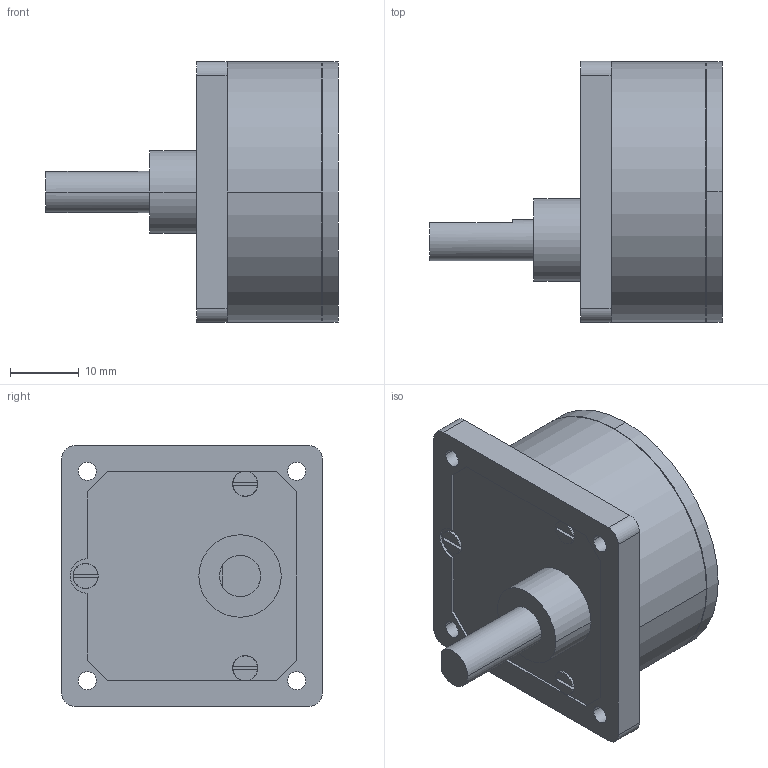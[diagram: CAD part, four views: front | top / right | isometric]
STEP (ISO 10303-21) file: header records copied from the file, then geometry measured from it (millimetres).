
FILE_DESCRIPTION((''),'2;1');
FILE_NAME('GS38','2016-10-06T',('mmagpetk'),(''),'CREO PARAMETRIC BY PTC INC, 2016050','CREO PARAMETRIC BY PTC INC, 2016050','');
FILE_SCHEMA(('CONFIG_CONTROL_DESIGN'));
Length unit declared in the file: millimetre
Products named in the file (1): GS38
Bounding box: 42.6 x 38 x 38 mm (x, y, z)
Volume: 25489 mm3; surface area: 6221.4 mm2
Topology: 1 solids, 1 shells, 75 faces, 194 edges, 126 vertices
Faces by surface type: plane 40, cylinder 27, cone 8
Entity records: 3219 total; most frequent: CARTESIAN_POINT 455, DIRECTION 412, ORIENTED_EDGE 388, PRESENTATION_STYLE_ASSIGNMENT 216, STYLED_ITEM 195, CURVE_STYLE 194, EDGE_CURVE 194, AXIS2_PLACEMENT_3D 155
